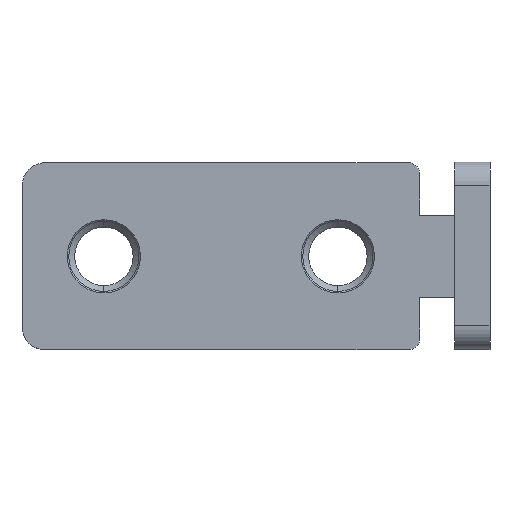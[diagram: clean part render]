
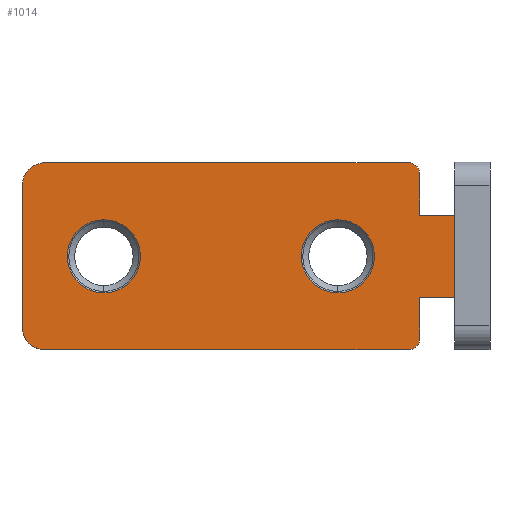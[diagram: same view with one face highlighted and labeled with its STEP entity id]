
A CAD part, top view. The second image highlights one B-rep face of the part: STEP entity #1014.
In plain terms, the highlighted planar face has unit normal (0, 0, 1).
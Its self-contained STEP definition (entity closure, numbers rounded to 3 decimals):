
#124=DIRECTION('',(0.,1.,0.));
#125=VECTOR('',#124,7.);
#126=CARTESIAN_POINT('',(0.,-3.5,0.));
#127=LINE('',#126,#125);
#238=CARTESIAN_POINT('',(-30.,0.,0.));
#239=DIRECTION('',(0.,0.,-1.));
#240=DIRECTION('',(0.,1.,0.));
#241=AXIS2_PLACEMENT_3D('',#238,#239,#240);
#243=CARTESIAN_POINT('',(-30.,0.,0.));
#244=DIRECTION('',(0.,0.,-1.));
#245=DIRECTION('',(0.,-1.,0.));
#246=AXIS2_PLACEMENT_3D('',#243,#244,#245);
#248=CARTESIAN_POINT('',(-10.,0.,0.));
#249=DIRECTION('',(0.,0.,-1.));
#250=DIRECTION('',(0.,1.,0.));
#251=AXIS2_PLACEMENT_3D('',#248,#249,#250);
#253=CARTESIAN_POINT('',(-10.,0.,0.));
#254=DIRECTION('',(0.,0.,-1.));
#255=DIRECTION('',(0.,-1.,0.));
#256=AXIS2_PLACEMENT_3D('',#253,#254,#255);
#258=DIRECTION('',(-1.,0.,0.));
#259=VECTOR('',#258,3.);
#260=CARTESIAN_POINT('',(0.,-3.5,0.));
#261=LINE('',#260,#259);
#262=DIRECTION('',(0.,1.,0.));
#263=VECTOR('',#262,3.5);
#264=CARTESIAN_POINT('',(-3.,-7.,0.));
#265=LINE('',#264,#263);
#266=DIRECTION('',(0.,-1.,0.));
#267=VECTOR('',#266,3.5);
#268=CARTESIAN_POINT('',(-3.,7.,0.));
#269=LINE('',#268,#267);
#270=DIRECTION('',(-1.,0.,0.));
#271=VECTOR('',#270,3.);
#272=CARTESIAN_POINT('',(0.,3.5,0.));
#273=LINE('',#272,#271);
#326=CARTESIAN_POINT('',(-4.,-7.,0.));
#327=DIRECTION('',(0.,0.,-1.));
#328=DIRECTION('',(1.,0.,0.));
#329=AXIS2_PLACEMENT_3D('',#326,#327,#328);
#335=DIRECTION('',(-1.,0.,0.));
#336=VECTOR('',#335,31.);
#337=CARTESIAN_POINT('',(-4.,-8.,0.));
#338=LINE('',#337,#336);
#343=CARTESIAN_POINT('',(-35.,-6.,0.));
#344=DIRECTION('',(0.,0.,-1.));
#345=DIRECTION('',(0.,-1.,0.));
#346=AXIS2_PLACEMENT_3D('',#343,#344,#345);
#357=DIRECTION('',(0.,1.,0.));
#358=VECTOR('',#357,12.);
#359=CARTESIAN_POINT('',(-37.,-6.,0.));
#360=LINE('',#359,#358);
#374=CARTESIAN_POINT('',(-35.,6.,0.));
#375=DIRECTION('',(0.,0.,-1.));
#376=DIRECTION('',(-1.,0.,0.));
#377=AXIS2_PLACEMENT_3D('',#374,#375,#376);
#379=DIRECTION('',(-1.,0.,0.));
#380=VECTOR('',#379,31.);
#381=CARTESIAN_POINT('',(-4.,8.,0.));
#382=LINE('',#381,#380);
#391=CARTESIAN_POINT('',(-4.,7.,0.));
#392=DIRECTION('',(0.,0.,-1.));
#393=DIRECTION('',(0.,1.,0.));
#394=AXIS2_PLACEMENT_3D('',#391,#392,#393);
#543=CARTESIAN_POINT('',(-3.,3.5,0.));
#545=VERTEX_POINT('',#543);
#547=CARTESIAN_POINT('',(-3.,-3.5,0.));
#549=VERTEX_POINT('',#547);
#551=CARTESIAN_POINT('',(-37.,6.,0.));
#553=VERTEX_POINT('',#551);
#555=CARTESIAN_POINT('',(-35.,8.,0.));
#556=VERTEX_POINT('',#555);
#560=CARTESIAN_POINT('',(-37.,-6.,0.));
#562=VERTEX_POINT('',#560);
#565=CARTESIAN_POINT('',(-35.,-8.,0.));
#566=VERTEX_POINT('',#565);
#568=CARTESIAN_POINT('',(-3.,7.,0.));
#570=VERTEX_POINT('',#568);
#573=CARTESIAN_POINT('',(-4.,8.,0.));
#574=VERTEX_POINT('',#573);
#575=CARTESIAN_POINT('',(-3.,-7.,0.));
#577=VERTEX_POINT('',#575);
#579=CARTESIAN_POINT('',(-4.,-8.,0.));
#580=VERTEX_POINT('',#579);
#587=CARTESIAN_POINT('',(-30.,3.125,0.));
#588=CARTESIAN_POINT('',(-30.,-3.125,0.));
#589=VERTEX_POINT('',#587);
#590=VERTEX_POINT('',#588);
#599=CARTESIAN_POINT('',(-10.,3.125,0.));
#600=CARTESIAN_POINT('',(-10.,-3.125,0.));
#601=VERTEX_POINT('',#599);
#602=VERTEX_POINT('',#600);
#607=CARTESIAN_POINT('',(0.,-3.5,0.));
#608=CARTESIAN_POINT('',(0.,3.5,0.));
#609=VERTEX_POINT('',#607);
#610=VERTEX_POINT('',#608);
#974=CARTESIAN_POINT('',(0.,-8.,0.));
#975=DIRECTION('',(0.,0.,-1.));
#976=DIRECTION('',(-1.,0.,0.));
#977=AXIS2_PLACEMENT_3D('',#974,#975,#976);
#978=PLANE('',#977);
#980=ORIENTED_EDGE('',*,*,#979,.T.);
#982=ORIENTED_EDGE('',*,*,#981,.F.);
#984=ORIENTED_EDGE('',*,*,#983,.T.);
#986=ORIENTED_EDGE('',*,*,#985,.T.);
#988=ORIENTED_EDGE('',*,*,#987,.T.);
#990=ORIENTED_EDGE('',*,*,#989,.T.);
#992=ORIENTED_EDGE('',*,*,#991,.T.);
#994=ORIENTED_EDGE('',*,*,#993,.F.);
#996=ORIENTED_EDGE('',*,*,#995,.T.);
#998=ORIENTED_EDGE('',*,*,#997,.T.);
#999=ORIENTED_EDGE('',*,*,#866,.F.);
#1000=ORIENTED_EDGE('',*,*,#773,.F.);
#1001=EDGE_LOOP('',(#980,#982,#984,#986,#988,#990,#992,#994,#996,#998,#999,
#1000));
#1002=FACE_OUTER_BOUND('',#1001,.F.);
#1004=ORIENTED_EDGE('',*,*,#1003,.F.);
#1005=ORIENTED_EDGE('',*,*,#964,.F.);
#1006=EDGE_LOOP('',(#1004,#1005));
#1007=FACE_BOUND('',#1006,.F.);
#1009=ORIENTED_EDGE('',*,*,#1008,.F.);
#1011=ORIENTED_EDGE('',*,*,#1010,.F.);
#1012=EDGE_LOOP('',(#1009,#1011));
#1013=FACE_BOUND('',#1012,.F.);
#1014=ADVANCED_FACE('',(#1002,#1007,#1013),#978,.F.);
#242=CIRCLE('',#241,3.125);
#247=CIRCLE('',#246,3.125);
#252=CIRCLE('',#251,3.125);
#257=CIRCLE('',#256,3.125);
#330=CIRCLE('',#329,1.);
#347=CIRCLE('',#346,2.);
#378=CIRCLE('',#377,2.);
#395=CIRCLE('',#394,1.);
#773=EDGE_CURVE('',#609,#610,#127,.T.);
#866=EDGE_CURVE('',#610,#545,#273,.T.);
#964=EDGE_CURVE('',#590,#589,#247,.T.);
#979=EDGE_CURVE('',#609,#549,#261,.T.);
#981=EDGE_CURVE('',#577,#549,#265,.T.);
#983=EDGE_CURVE('',#577,#580,#330,.T.);
#985=EDGE_CURVE('',#580,#566,#338,.T.);
#987=EDGE_CURVE('',#566,#562,#347,.T.);
#989=EDGE_CURVE('',#562,#553,#360,.T.);
#991=EDGE_CURVE('',#553,#556,#378,.T.);
#993=EDGE_CURVE('',#574,#556,#382,.T.);
#995=EDGE_CURVE('',#574,#570,#395,.T.);
#997=EDGE_CURVE('',#570,#545,#269,.T.);
#1003=EDGE_CURVE('',#589,#590,#242,.T.);
#1008=EDGE_CURVE('',#601,#602,#252,.T.);
#1010=EDGE_CURVE('',#602,#601,#257,.T.);
